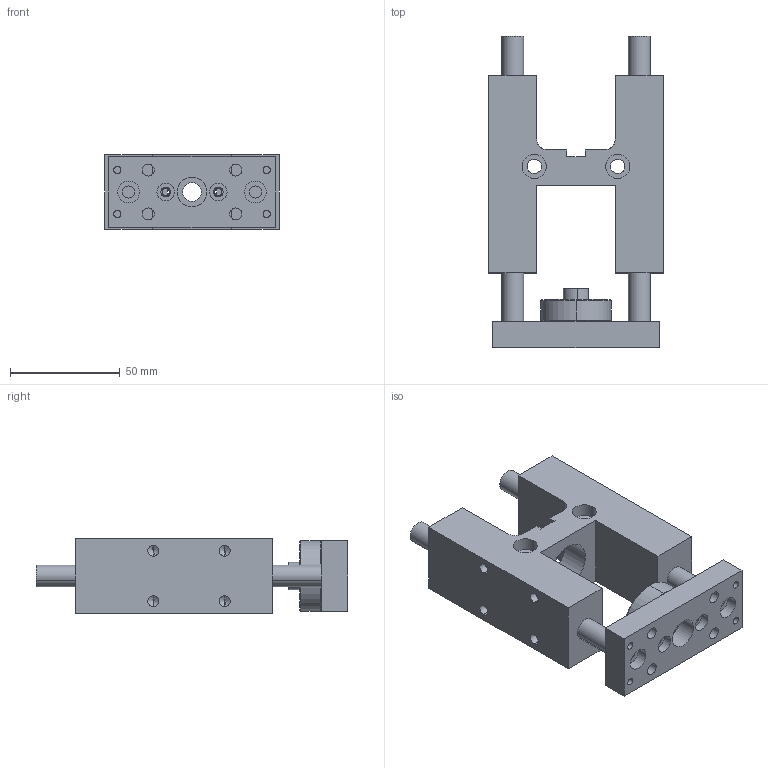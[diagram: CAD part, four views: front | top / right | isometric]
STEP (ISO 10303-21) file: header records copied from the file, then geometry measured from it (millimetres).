
FILE_DESCRIPTION (( 'STEP AP214' ), '1' );
FILE_NAME ('RHY_25.STEP', '2021-10-23T20:51:25', ( '' ), ( '' ), 'SwSTEP 2.0', 'SolidWorks 2021', '' );
FILE_SCHEMA (( 'AUTOMOTIVE_DESIGN' ));
Length unit declared in the file: millimetre
Products named in the file (6): RHY_25_GOVDE; RHY_25; RHY_25_10_K_MIL; RHY_25_PART_2; RHY_25_SOMUN; RHY_25_FLANS
Assembly tree (6 placements, depth 2):
  RHY_25
    RHY_25_GOVDE
    RHY_25_FLANS
    RHY_25_10_K_MIL  x2
    RHY_25_PART_2
    RHY_25_SOMUN
Bounding box: 79.5 x 142 x 34 mm (x, y, z)
Volume: 176470.7 mm3; surface area: 56847 mm2
Topology: 6 solids, 6 shells, 172 faces, 417 edges, 262 vertices
Faces by surface type: cylinder 101, plane 49, cone 20, bspline 2
Entity records: 5649 total; most frequent: CARTESIAN_POINT 1076, DIRECTION 953, ORIENTED_EDGE 790, EDGE_CURVE 395, AXIS2_PLACEMENT_3D 385, VERTEX_POINT 258, EDGE_LOOP 233, CIRCLE 210
